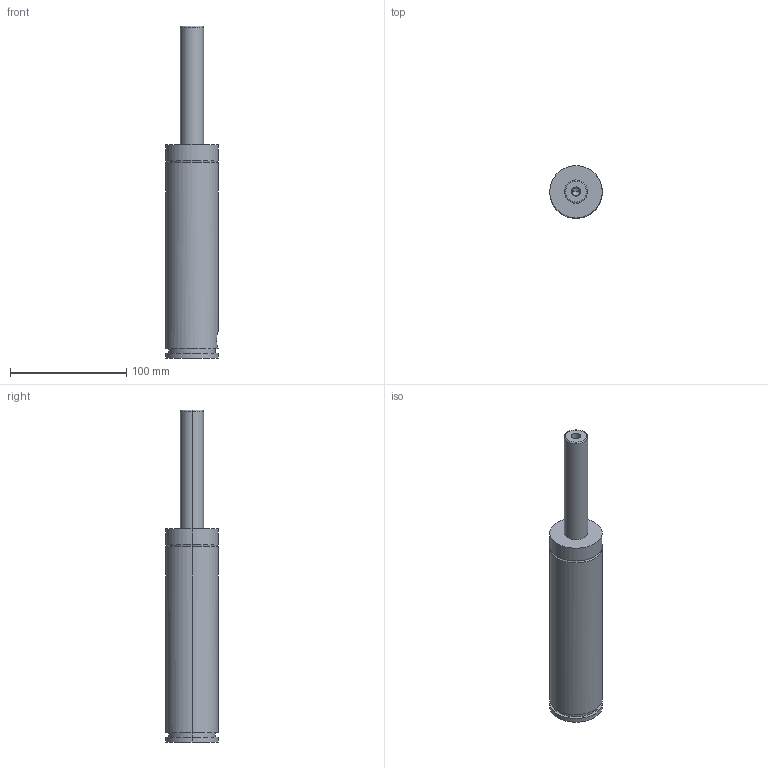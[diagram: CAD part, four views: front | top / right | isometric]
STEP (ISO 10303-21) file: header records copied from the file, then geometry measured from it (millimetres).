
FILE_DESCRIPTION(/* description */ (''),/* implementation_level */ '2;1');
FILE_NAME(/* name */ '3d_gse45-100_03883_r00.stp',/* time_stamp */ '2011-01-10T14:15:19+09:00',/* author */ ('MISUMI'),/* organization */ (''),/* preprocessor_version */ 'ST-DEVELOPER v11',/* originating_system */ 'UGS - NX 5.0',/* authorisation */ '');
FILE_SCHEMA (('CONFIG_CONTROL_DESIGN'));
Length unit declared in the file: millimetre
Products named in the file (1): 3d_gse45-100_03883_r00
Bounding box: 45 x 45 x 285 mm (x, y, z)
Volume: 318900.4 mm3; surface area: 37557.1 mm2
Topology: 1 solids, 1 shells, 57 faces, 122 edges, 77 vertices
Faces by surface type: cylinder 26, plane 21, cone 6, torus 4
Entity records: 1648 total; most frequent: DIRECTION 296, CARTESIAN_POINT 279, ORIENTED_EDGE 240, AXIS2_PLACEMENT_3D 122, EDGE_CURVE 120, VERTEX_POINT 77, EDGE_LOOP 69, CIRCLE 64
